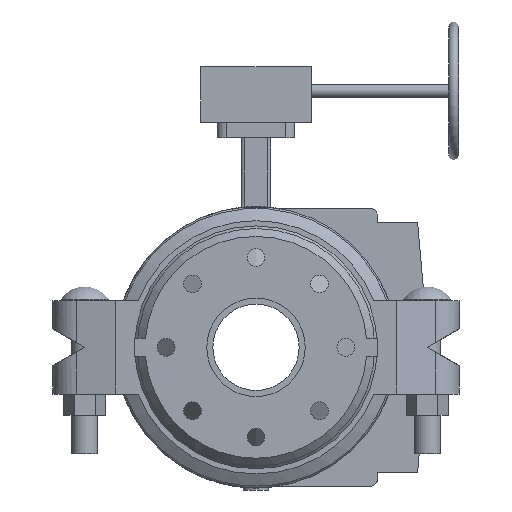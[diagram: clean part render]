
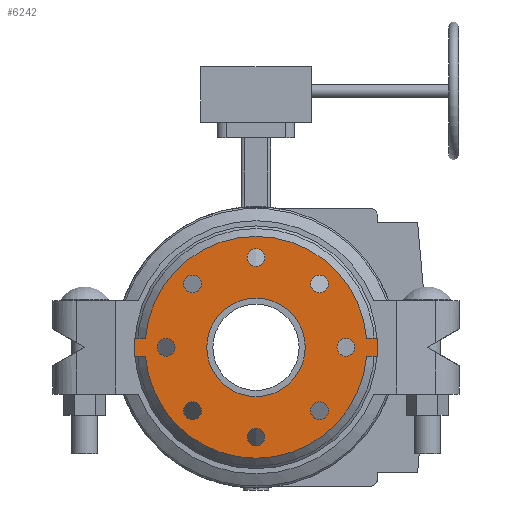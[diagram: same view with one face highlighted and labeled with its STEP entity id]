
A CAD part, front view. The second image highlights one B-rep face of the part: STEP entity #6242.
In plain terms, the highlighted planar face has unit normal (0, -1, 0) as drawn and (0, 0, -1) by its records, which use the part's own axes.
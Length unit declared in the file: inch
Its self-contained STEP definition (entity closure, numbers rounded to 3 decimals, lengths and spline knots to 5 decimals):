
#176=FACE_BOUND('',#807,.T.);
#177=FACE_BOUND('',#808,.T.);
#178=FACE_BOUND('',#809,.T.);
#179=FACE_BOUND('',#810,.T.);
#180=FACE_BOUND('',#811,.T.);
#181=FACE_BOUND('',#812,.T.);
#182=FACE_BOUND('',#813,.T.);
#183=FACE_BOUND('',#814,.T.);
#184=FACE_BOUND('',#815,.T.);
#251=PLANE('',#6780);
#462=FACE_OUTER_BOUND('',#806,.T.);
#806=EDGE_LOOP('',(#4066,#4067,#4068,#4069,#4070,#4071,#4072,#4073));
#807=EDGE_LOOP('',(#4074));
#808=EDGE_LOOP('',(#4075));
#809=EDGE_LOOP('',(#4076));
#810=EDGE_LOOP('',(#4077));
#811=EDGE_LOOP('',(#4078));
#812=EDGE_LOOP('',(#4079));
#813=EDGE_LOOP('',(#4080));
#814=EDGE_LOOP('',(#4081));
#815=EDGE_LOOP('',(#4082));
#1204=LINE('',#9463,#1672);
#1207=LINE('',#9469,#1675);
#1210=LINE('',#9474,#1678);
#1212=LINE('',#9479,#1680);
#1216=LINE('',#9486,#1684);
#1218=LINE('',#9489,#1686);
#1672=VECTOR('',#7550,0.3937);
#1675=VECTOR('',#7555,0.3937);
#1678=VECTOR('',#7560,0.3937);
#1680=VECTOR('',#7564,0.3937);
#1684=VECTOR('',#7570,0.3937);
#1686=VECTOR('',#7574,0.3937);
#2128=CIRCLE('',#6742,0.315);
#2130=CIRCLE('',#6745,0.315);
#2132=CIRCLE('',#6748,0.315);
#2134=CIRCLE('',#6751,0.315);
#2136=CIRCLE('',#6754,0.315);
#2138=CIRCLE('',#6757,0.315);
#2140=CIRCLE('',#6760,0.315);
#2142=CIRCLE('',#6763,0.315);
#2143=CIRCLE('',#6765,1.75);
#2145=CIRCLE('',#6768,3.94);
#2148=CIRCLE('',#6772,3.94);
#2482=VERTEX_POINT('',#9392);
#2484=VERTEX_POINT('',#9398);
#2486=VERTEX_POINT('',#9404);
#2488=VERTEX_POINT('',#9410);
#2490=VERTEX_POINT('',#9416);
#2492=VERTEX_POINT('',#9422);
#2494=VERTEX_POINT('',#9428);
#2496=VERTEX_POINT('',#9434);
#2497=VERTEX_POINT('',#9438);
#2499=VERTEX_POINT('',#9444);
#2501=VERTEX_POINT('',#9447);
#2503=VERTEX_POINT('',#9453);
#2506=VERTEX_POINT('',#9458);
#2507=VERTEX_POINT('',#9462);
#2509=VERTEX_POINT('',#9468);
#2511=VERTEX_POINT('',#9477);
#2512=VERTEX_POINT('',#9478);
#3089=EDGE_CURVE('',#2482,#2482,#2128,.T.);
#3092=EDGE_CURVE('',#2484,#2484,#2130,.T.);
#3095=EDGE_CURVE('',#2486,#2486,#2132,.T.);
#3098=EDGE_CURVE('',#2488,#2488,#2134,.T.);
#3101=EDGE_CURVE('',#2490,#2490,#2136,.T.);
#3104=EDGE_CURVE('',#2492,#2492,#2138,.T.);
#3107=EDGE_CURVE('',#2494,#2494,#2140,.T.);
#3110=EDGE_CURVE('',#2496,#2496,#2142,.T.);
#3111=EDGE_CURVE('',#2497,#2497,#2143,.T.);
#3115=EDGE_CURVE('',#2499,#2501,#2145,.T.);
#3121=EDGE_CURVE('',#2506,#2503,#2148,.T.);
#3122=EDGE_CURVE('',#2501,#2507,#1204,.T.);
#3125=EDGE_CURVE('',#2509,#2506,#1207,.T.);
#3128=EDGE_CURVE('',#2507,#2509,#1210,.T.);
#3130=EDGE_CURVE('',#2511,#2512,#1212,.T.);
#3134=EDGE_CURVE('',#2503,#2511,#1216,.T.);
#3136=EDGE_CURVE('',#2512,#2499,#1218,.T.);
#4066=ORIENTED_EDGE('',*,*,#3136,.F.);
#4067=ORIENTED_EDGE('',*,*,#3130,.F.);
#4068=ORIENTED_EDGE('',*,*,#3134,.F.);
#4069=ORIENTED_EDGE('',*,*,#3121,.F.);
#4070=ORIENTED_EDGE('',*,*,#3125,.F.);
#4071=ORIENTED_EDGE('',*,*,#3128,.F.);
#4072=ORIENTED_EDGE('',*,*,#3122,.F.);
#4073=ORIENTED_EDGE('',*,*,#3115,.F.);
#4074=ORIENTED_EDGE('',*,*,#3089,.T.);
#4075=ORIENTED_EDGE('',*,*,#3092,.T.);
#4076=ORIENTED_EDGE('',*,*,#3095,.T.);
#4077=ORIENTED_EDGE('',*,*,#3098,.T.);
#4078=ORIENTED_EDGE('',*,*,#3101,.T.);
#4079=ORIENTED_EDGE('',*,*,#3104,.T.);
#4080=ORIENTED_EDGE('',*,*,#3107,.T.);
#4081=ORIENTED_EDGE('',*,*,#3110,.T.);
#4082=ORIENTED_EDGE('',*,*,#3111,.T.);
#6242=ADVANCED_FACE('',(#462,#176,#177,#178,#179,#180,#181,#182,#183,#184),
#251,.F.);
#6742=AXIS2_PLACEMENT_3D('',#9394,#7474,#7475);
#6745=AXIS2_PLACEMENT_3D('',#9400,#7481,#7482);
#6748=AXIS2_PLACEMENT_3D('',#9406,#7488,#7489);
#6751=AXIS2_PLACEMENT_3D('',#9412,#7495,#7496);
#6754=AXIS2_PLACEMENT_3D('',#9418,#7502,#7503);
#6757=AXIS2_PLACEMENT_3D('',#9424,#7509,#7510);
#6760=AXIS2_PLACEMENT_3D('',#9430,#7516,#7517);
#6763=AXIS2_PLACEMENT_3D('',#9436,#7523,#7524);
#6765=AXIS2_PLACEMENT_3D('',#9439,#7527,#7528);
#6768=AXIS2_PLACEMENT_3D('',#9448,#7535,#7536);
#6772=AXIS2_PLACEMENT_3D('',#9460,#7546,#7547);
#6780=AXIS2_PLACEMENT_3D('',#9492,#7578,#7579);
#7474=DIRECTION('center_axis',(0.,0.,1.));
#7475=DIRECTION('ref_axis',(-0.707,-0.707,0.));
#7481=DIRECTION('center_axis',(0.,0.,1.));
#7482=DIRECTION('ref_axis',(-1.,0.,0.));
#7488=DIRECTION('center_axis',(0.,0.,1.));
#7489=DIRECTION('ref_axis',(-0.707,0.707,0.));
#7495=DIRECTION('center_axis',(0.,0.,1.));
#7496=DIRECTION('ref_axis',(0.,1.,0.));
#7502=DIRECTION('center_axis',(0.,0.,1.));
#7503=DIRECTION('ref_axis',(0.707,0.707,0.));
#7509=DIRECTION('center_axis',(0.,0.,1.));
#7510=DIRECTION('ref_axis',(1.,0.,0.));
#7516=DIRECTION('center_axis',(0.,0.,1.));
#7517=DIRECTION('ref_axis',(0.707,-0.707,0.));
#7523=DIRECTION('center_axis',(0.,0.,1.));
#7524=DIRECTION('ref_axis',(0.,-1.,0.));
#7527=DIRECTION('center_axis',(0.,0.,1.));
#7528=DIRECTION('ref_axis',(0.,-1.,0.));
#7535=DIRECTION('center_axis',(0.,0.,1.));
#7536=DIRECTION('ref_axis',(0.,1.,0.));
#7546=DIRECTION('center_axis',(0.,0.,1.));
#7547=DIRECTION('ref_axis',(0.,1.,0.));
#7550=DIRECTION('',(0.,-1.,0.));
#7555=DIRECTION('',(0.,1.,0.));
#7560=DIRECTION('',(1.,0.,0.));
#7564=DIRECTION('',(-1.,0.,0.));
#7570=DIRECTION('',(0.,1.,0.));
#7574=DIRECTION('',(0.,-1.,0.));
#7578=DIRECTION('center_axis',(0.,0.,1.));
#7579=DIRECTION('ref_axis',(0.,1.,0.));
#9392=CARTESIAN_POINT('',(-2.03293,2.47841,0.));
#9394=CARTESIAN_POINT('Origin',(-2.25567,2.25567,0.));
#9398=CARTESIAN_POINT('',(0.315,3.19,0.));
#9400=CARTESIAN_POINT('Origin',(0.,3.19,0.));
#9404=CARTESIAN_POINT('',(2.47841,2.03293,0.));
#9406=CARTESIAN_POINT('Origin',(2.25567,2.25567,0.));
#9410=CARTESIAN_POINT('',(3.19,-0.315,0.));
#9412=CARTESIAN_POINT('Origin',(3.19,0.,0.));
#9416=CARTESIAN_POINT('',(2.03293,-2.47841,0.));
#9418=CARTESIAN_POINT('Origin',(2.25567,-2.25567,0.));
#9422=CARTESIAN_POINT('',(-0.315,-3.19,0.));
#9424=CARTESIAN_POINT('Origin',(0.,-3.19,0.));
#9428=CARTESIAN_POINT('',(-2.47841,-2.03293,0.));
#9430=CARTESIAN_POINT('Origin',(-2.25567,-2.25567,0.));
#9434=CARTESIAN_POINT('',(-3.19,0.315,0.));
#9436=CARTESIAN_POINT('Origin',(-3.19,0.,0.));
#9438=CARTESIAN_POINT('',(0.,1.75,0.));
#9439=CARTESIAN_POINT('Origin',(0.,0.,0.));
#9444=CARTESIAN_POINT('',(-0.32,3.92698,0.));
#9447=CARTESIAN_POINT('',(-0.32,-3.92698,0.));
#9448=CARTESIAN_POINT('Origin',(0.,0.,0.));
#9453=CARTESIAN_POINT('',(0.32,3.92698,0.));
#9458=CARTESIAN_POINT('',(0.32,-3.92698,0.));
#9460=CARTESIAN_POINT('Origin',(0.,0.,0.));
#9462=CARTESIAN_POINT('',(-0.32,-4.315,0.));
#9463=CARTESIAN_POINT('',(-0.32,-3.92698,0.));
#9468=CARTESIAN_POINT('',(0.32,-4.315,0.));
#9469=CARTESIAN_POINT('',(0.32,-4.315,0.));
#9474=CARTESIAN_POINT('',(-0.32,-4.315,0.));
#9477=CARTESIAN_POINT('',(0.32,4.315,0.));
#9478=CARTESIAN_POINT('',(-0.32,4.315,0.));
#9479=CARTESIAN_POINT('',(0.32,4.315,0.));
#9486=CARTESIAN_POINT('',(0.32,3.92698,0.));
#9489=CARTESIAN_POINT('',(-0.32,4.315,0.));
#9492=CARTESIAN_POINT('Origin',(0.,4.1395,0.));
